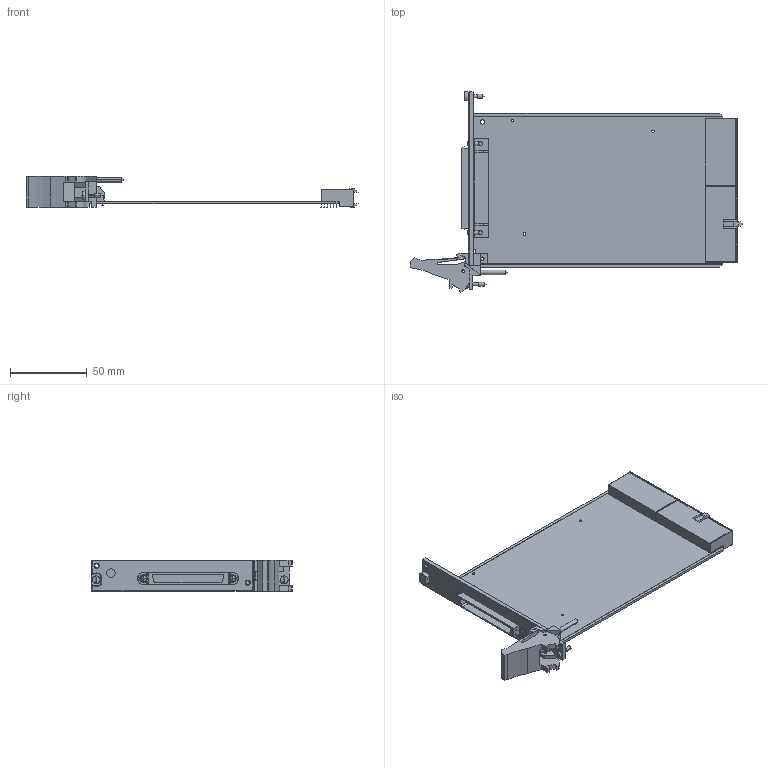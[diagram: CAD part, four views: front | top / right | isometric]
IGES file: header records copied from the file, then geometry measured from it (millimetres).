
Start section:  PTC IGES file: cu_pxi-mod-68pos_std-scsi.igs
Global section: file name: cu_pxi-mod-68pos_std-scsi.igs; native system: Pro/ENGINEER by Parametric Technology Corporation; preprocessor: 2010230; author: dkendric; organization: Unknown; date: 20110926.104657; units: inch
Bounding box: 216.08 x 130.62 x 20.19 mm (x, y, z)
Surface area: 52485.2 mm2 (no closed solid volume)
Topology: 0 solids, 0 shells, 564 faces, 2938 edges, 2934 vertices
Faces by surface type: bspline 376, revolution 188
